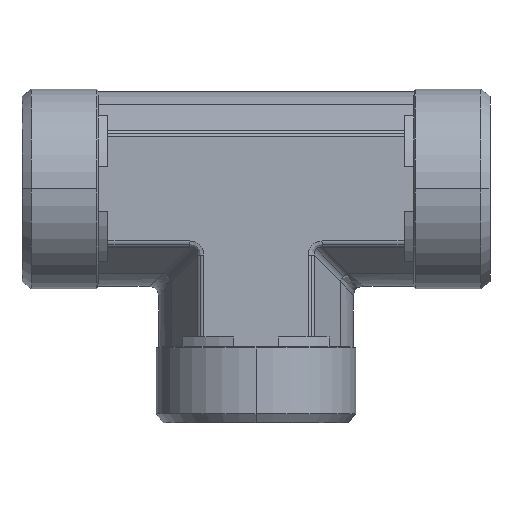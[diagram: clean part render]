
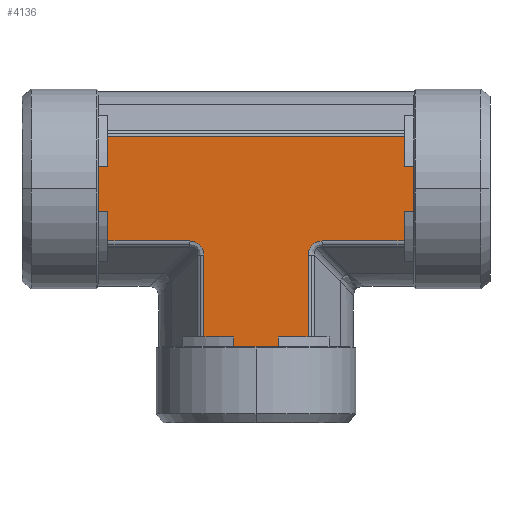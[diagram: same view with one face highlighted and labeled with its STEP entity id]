
A CAD part, left-side view. The second image highlights one B-rep face of the part: STEP entity #4136.
In plain terms, the highlighted planar face has unit normal (-1, 0, 0).
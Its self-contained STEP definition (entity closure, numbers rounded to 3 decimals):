
#668=CARTESIAN_POINT('',(-20.375,33.0,12.));
#669=VERTEX_POINT('',#668);
#769=CARTESIAN_POINT('',(-20.375,0.,-21.));
#770=VERTEX_POINT('',#769);
#843=CARTESIAN_POINT('',(-20.375,-33.0,12.));
#844=VERTEX_POINT('',#843);
#952=CARTESIAN_POINT('',(-20.375,13.929,1.103));
#953=VERTEX_POINT('',#952);
#961=CARTESIAN_POINT('',(-20.375,31.,1.103));
#962=VERTEX_POINT('',#961);
#963=CARTESIAN_POINT('',(-20.375,13.929,1.103));
#964=DIRECTION('',(0.0,1.0,0.0));
#965=VECTOR('',#964,17.071);
#966=LINE('',#963,#965);
#967=EDGE_CURVE('',#953,#962,#966,.T.);
#1320=CARTESIAN_POINT('',(-20.375,-10.897,-1.929));
#1321=VERTEX_POINT('',#1320);
#1329=CARTESIAN_POINT('',(-20.375,-10.897,-19.));
#1330=VERTEX_POINT('',#1329);
#1331=CARTESIAN_POINT('',(-20.375,-10.897,-1.929));
#1332=DIRECTION('',(0.0,0.0,-1.0));
#1333=VECTOR('',#1332,17.071);
#1334=LINE('',#1331,#1333);
#1335=EDGE_CURVE('',#1321,#1330,#1334,.T.);
#1726=CARTESIAN_POINT('',(-20.375,31.,22.897));
#1727=VERTEX_POINT('',#1726);
#1735=CARTESIAN_POINT('',(-20.375,-31.,22.897));
#1736=VERTEX_POINT('',#1735);
#1737=CARTESIAN_POINT('',(-20.375,31.,22.897));
#1738=DIRECTION('',(0.0,-1.0,0.0));
#1739=VECTOR('',#1738,62.0);
#1740=LINE('',#1737,#1739);
#1741=EDGE_CURVE('',#1727,#1736,#1740,.T.);
#2183=CARTESIAN_POINT('',(-20.375,-31.,7.3));
#2184=VERTEX_POINT('',#2183);
#2192=CARTESIAN_POINT('',(-20.375,-31.,1.103));
#2193=VERTEX_POINT('',#2192);
#2194=CARTESIAN_POINT('',(-20.375,-31.,1.103));
#2195=DIRECTION('',(0.0,0.0,1.0));
#2196=VECTOR('',#2195,6.198);
#2197=LINE('',#2194,#2196);
#2198=EDGE_CURVE('',#2193,#2184,#2197,.T.);
#2216=CARTESIAN_POINT('',(-20.375,-31.,16.7));
#2217=VERTEX_POINT('',#2216);
#2218=CARTESIAN_POINT('',(-20.375,-31.,16.7));
#2219=DIRECTION('',(0.0,0.0,1.0));
#2220=VECTOR('',#2219,6.198);
#2221=LINE('',#2218,#2220);
#2222=EDGE_CURVE('',#2217,#1736,#2221,.T.);
#2297=CARTESIAN_POINT('',(-20.375,-33.0,7.3));
#2298=VERTEX_POINT('',#2297);
#2306=CARTESIAN_POINT('',(-20.375,-31.,7.3));
#2307=DIRECTION('',(0.,-1.0,0.));
#2308=VECTOR('',#2307,2.);
#2309=LINE('',#2306,#2308);
#2310=EDGE_CURVE('',#2184,#2298,#2309,.T.);
#2371=CARTESIAN_POINT('',(-20.375,-33.0,16.7));
#2372=VERTEX_POINT('',#2371);
#2373=CARTESIAN_POINT('',(-20.375,-33.0,16.7));
#2374=DIRECTION('',(0.,1.0,0.));
#2375=VECTOR('',#2374,2.);
#2376=LINE('',#2373,#2375);
#2377=EDGE_CURVE('',#2372,#2217,#2376,.T.);
#2536=CARTESIAN_POINT('',(-20.375,-13.929,1.103));
#2537=VERTEX_POINT('',#2536);
#2538=CARTESIAN_POINT('',(-20.375,-31.,1.103));
#2539=DIRECTION('',(0.0,1.0,0.0));
#2540=VECTOR('',#2539,17.071);
#2541=LINE('',#2538,#2540);
#2542=EDGE_CURVE('',#2193,#2537,#2541,.T.);
#2718=CARTESIAN_POINT('',(-20.375,4.7,-19.));
#2719=VERTEX_POINT('',#2718);
#2727=CARTESIAN_POINT('',(-20.375,10.897,-19.));
#2728=VERTEX_POINT('',#2727);
#2729=CARTESIAN_POINT('',(-20.375,10.897,-19.));
#2730=DIRECTION('',(0.0,-1.0,0.0));
#2731=VECTOR('',#2730,6.198);
#2732=LINE('',#2729,#2731);
#2733=EDGE_CURVE('',#2728,#2719,#2732,.T.);
#2751=CARTESIAN_POINT('',(-20.375,-4.7,-19.));
#2752=VERTEX_POINT('',#2751);
#2753=CARTESIAN_POINT('',(-20.375,-4.7,-19.));
#2754=DIRECTION('',(0.0,-1.0,0.0));
#2755=VECTOR('',#2754,6.198);
#2756=LINE('',#2753,#2755);
#2757=EDGE_CURVE('',#2752,#1330,#2756,.T.);
#2865=CARTESIAN_POINT('',(-20.375,-4.7,-21.0));
#2866=VERTEX_POINT('',#2865);
#2867=CARTESIAN_POINT('',(-20.375,-4.7,-21.0));
#2868=DIRECTION('',(0.0,0.0,1.0));
#2869=VECTOR('',#2868,2.);
#2870=LINE('',#2867,#2869);
#2871=EDGE_CURVE('',#2866,#2752,#2870,.T.);
#2905=CARTESIAN_POINT('',(-20.375,4.7,-21.0));
#2906=VERTEX_POINT('',#2905);
#2914=CARTESIAN_POINT('',(-20.375,4.7,-19.));
#2915=DIRECTION('',(0.0,0.0,-1.0));
#2916=VECTOR('',#2915,2.);
#2917=LINE('',#2914,#2916);
#2918=EDGE_CURVE('',#2719,#2906,#2917,.T.);
#3150=CARTESIAN_POINT('',(-20.375,10.897,-1.929));
#3151=VERTEX_POINT('',#3150);
#3152=CARTESIAN_POINT('',(-20.375,10.897,-19.));
#3153=DIRECTION('',(0.0,0.0,1.0));
#3154=VECTOR('',#3153,17.071);
#3155=LINE('',#3152,#3154);
#3156=EDGE_CURVE('',#2728,#3151,#3155,.T.);
#3398=CARTESIAN_POINT('',(-20.375,31.,16.7));
#3399=VERTEX_POINT('',#3398);
#3400=CARTESIAN_POINT('',(-20.375,31.,22.897));
#3401=DIRECTION('',(0.0,0.0,-1.0));
#3402=VECTOR('',#3401,6.198);
#3403=LINE('',#3400,#3402);
#3404=EDGE_CURVE('',#1727,#3399,#3403,.T.);
#3424=CARTESIAN_POINT('',(-20.375,31.,7.3));
#3425=VERTEX_POINT('',#3424);
#3426=CARTESIAN_POINT('',(-20.375,31.,7.3));
#3427=DIRECTION('',(0.0,0.0,-1.0));
#3428=VECTOR('',#3427,6.198);
#3429=LINE('',#3426,#3428);
#3430=EDGE_CURVE('',#3425,#962,#3429,.T.);
#3497=CARTESIAN_POINT('',(-20.375,33.0,16.7));
#3498=VERTEX_POINT('',#3497);
#3499=CARTESIAN_POINT('',(-20.375,31.,16.7));
#3500=DIRECTION('',(0.0,1.0,0.0));
#3501=VECTOR('',#3500,2.);
#3502=LINE('',#3499,#3501);
#3503=EDGE_CURVE('',#3399,#3498,#3502,.T.);
#3572=CARTESIAN_POINT('',(-20.375,33.0,7.3));
#3573=VERTEX_POINT('',#3572);
#3574=CARTESIAN_POINT('',(-20.375,33.0,7.3));
#3575=DIRECTION('',(0.0,-1.0,0.0));
#3576=VECTOR('',#3575,2.);
#3577=LINE('',#3574,#3576);
#3578=EDGE_CURVE('',#3573,#3425,#3577,.T.);
#3680=CARTESIAN_POINT('',(-20.375,33.0,16.7));
#3681=DIRECTION('',(0.0,0.0,-1.0));
#3682=VECTOR('',#3681,4.7);
#3683=LINE('',#3680,#3682);
#3684=EDGE_CURVE('',#3498,#669,#3683,.T.);
#3870=CARTESIAN_POINT('',(-20.375,-33.0,12.));
#3871=DIRECTION('',(0.0,0.0,1.0));
#3872=VECTOR('',#3871,4.7);
#3873=LINE('',#3870,#3872);
#3874=EDGE_CURVE('',#844,#2372,#3873,.T.);
#3949=CARTESIAN_POINT('',(-20.375,0.,-21.));
#3950=DIRECTION('',(0.0,-1.0,0.0));
#3951=VECTOR('',#3950,4.7);
#3952=LINE('',#3949,#3951);
#3953=EDGE_CURVE('',#770,#2866,#3952,.T.);
#3990=CARTESIAN_POINT('',(-20.375,4.7,-21.0));
#3991=DIRECTION('',(0.0,-1.0,0.0));
#3992=VECTOR('',#3991,4.7);
#3993=LINE('',#3990,#3992);
#3994=EDGE_CURVE('',#2906,#770,#3993,.T.);
#4059=CARTESIAN_POINT('',(-20.375,33.0,12.));
#4060=DIRECTION('',(0.0,0.0,-1.0));
#4061=VECTOR('',#4060,4.7);
#4062=LINE('',#4059,#4061);
#4063=EDGE_CURVE('',#669,#3573,#4062,.T.);
#4083=CARTESIAN_POINT('',(-20.375,-33.0,7.3));
#4084=DIRECTION('',(0.0,0.0,1.0));
#4085=VECTOR('',#4084,4.7);
#4086=LINE('',#4083,#4085);
#4087=EDGE_CURVE('',#2298,#844,#4086,.T.);
#4092=CARTESIAN_POINT('',(-20.375,11.764,12.0));
#4093=DIRECTION('',(-1.0,0.0,0.0));
#4094=DIRECTION('',(0.0,0.0,1.0));
#4095=AXIS2_PLACEMENT_3D('',#4092,#4093,#4094);
#4096=PLANE('',#4095);
#4097=ORIENTED_EDGE('',*,*,#2222,.T.);
#4098=ORIENTED_EDGE('',*,*,#1741,.F.);
#4099=ORIENTED_EDGE('',*,*,#3404,.T.);
#4100=ORIENTED_EDGE('',*,*,#3503,.T.);
#4101=ORIENTED_EDGE('',*,*,#3684,.T.);
#4102=ORIENTED_EDGE('',*,*,#4063,.T.);
#4103=ORIENTED_EDGE('',*,*,#3578,.T.);
#4104=ORIENTED_EDGE('',*,*,#3430,.T.);
#4105=ORIENTED_EDGE('',*,*,#967,.F.);
#4106=CARTESIAN_POINT('',(-20.375,14.939,-2.939));
#4107=DIRECTION('',(-1.0,0.,0.));
#4108=DIRECTION('',(0.,-0.707,0.707));
#4109=AXIS2_PLACEMENT_3D('',#4106,#4107,#4108);
#4110=ELLIPSE('',#4109,4.518,3.5);
#4111=EDGE_CURVE('',#3151,#953,#4110,.T.);
#4112=ORIENTED_EDGE('',*,*,#4111,.F.);
#4113=ORIENTED_EDGE('',*,*,#3156,.F.);
#4114=ORIENTED_EDGE('',*,*,#2733,.T.);
#4115=ORIENTED_EDGE('',*,*,#2918,.T.);
#4116=ORIENTED_EDGE('',*,*,#3994,.T.);
#4117=ORIENTED_EDGE('',*,*,#3953,.T.);
#4118=ORIENTED_EDGE('',*,*,#2871,.T.);
#4119=ORIENTED_EDGE('',*,*,#2757,.T.);
#4120=ORIENTED_EDGE('',*,*,#1335,.F.);
#4121=CARTESIAN_POINT('',(-20.375,-14.939,-2.939));
#4122=DIRECTION('',(-1.0,0.,0.));
#4123=DIRECTION('',(0.,0.707,0.707));
#4124=AXIS2_PLACEMENT_3D('',#4121,#4122,#4123);
#4125=ELLIPSE('',#4124,4.518,3.5);
#4126=EDGE_CURVE('',#2537,#1321,#4125,.T.);
#4127=ORIENTED_EDGE('',*,*,#4126,.F.);
#4128=ORIENTED_EDGE('',*,*,#2542,.F.);
#4129=ORIENTED_EDGE('',*,*,#2198,.T.);
#4130=ORIENTED_EDGE('',*,*,#2310,.T.);
#4131=ORIENTED_EDGE('',*,*,#4087,.T.);
#4132=ORIENTED_EDGE('',*,*,#3874,.T.);
#4133=ORIENTED_EDGE('',*,*,#2377,.T.);
#4134=EDGE_LOOP('',(#4097,#4098,#4099,#4100,#4101,#4102,#4103,#4104,#4105,#4112,#4113,#4114,#4115,#4116,#4117,#4118,#4119,#4120,#4127,#4128,#4129,#4130,#4131,#4132,#4133));
#4135=FACE_OUTER_BOUND('',#4134,.T.);
#4136=ADVANCED_FACE('',(#4135),#4096,.T.);
